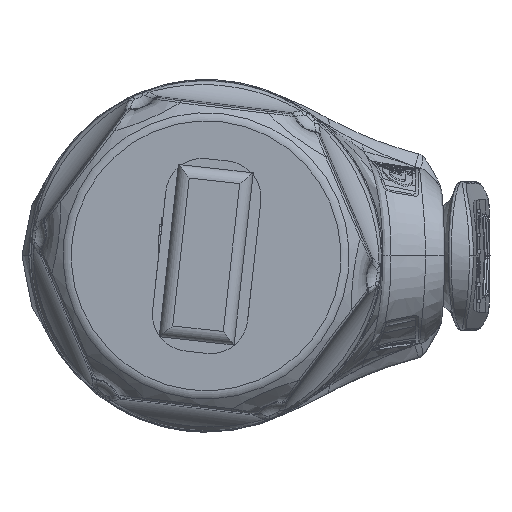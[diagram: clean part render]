
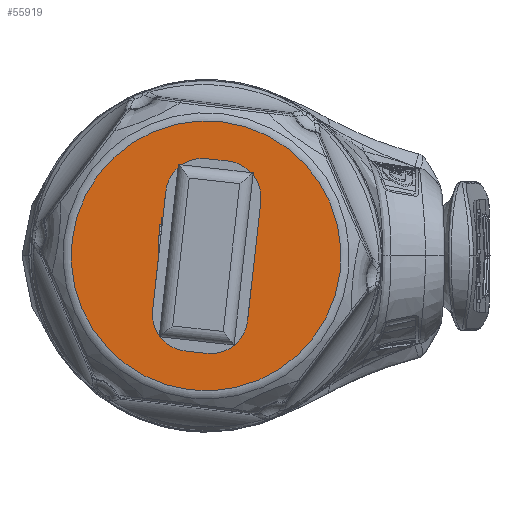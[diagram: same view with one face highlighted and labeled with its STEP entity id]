
A CAD part, left-side view. The second image highlights one B-rep face of the part: STEP entity #55919.
In plain terms, the highlighted planar face has unit normal (-1, 0, 0).
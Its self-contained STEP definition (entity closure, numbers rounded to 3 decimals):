
#882 = EDGE_CURVE ( 'NONE', #69760, #69760, #5087, .T. ) ;
#1437 = AXIS2_PLACEMENT_3D ( 'NONE', #70289, #92900, #85528 ) ;
#2358 = FACE_BOUND ( 'NONE', #71876, .T. ) ;
#4721 = ORIENTED_EDGE ( 'NONE', *, *, #23248, .T. ) ;
#4767 = VERTEX_POINT ( 'NONE', #27858 ) ;
#5087 = CIRCLE ( 'NONE', #80523, 2.5 ) ;
#12000 = DIRECTION ( 'NONE',  ( 0., -1., 0. ) ) ;
#18285 = AXIS2_PLACEMENT_3D ( 'NONE', #51743, #75871, #59138 ) ;
#23248 = EDGE_CURVE ( 'NONE', #4767, #4767, #78236, .T. ) ;
#25790 = DIRECTION ( 'NONE',  ( -1., 0., 0. ) ) ;
#26753 = EDGE_LOOP ( 'NONE', ( #4721 ) ) ;
#27858 = CARTESIAN_POINT ( 'NONE',  ( -59.9, -4.312, -10.137 ) ) ;
#32695 = CARTESIAN_POINT ( 'NONE',  ( -59.9, -0.05, -0.015 ) ) ;
#40235 = FACE_OUTER_BOUND ( 'NONE', #26753, .T. ) ;
#47250 = ORIENTED_EDGE ( 'NONE', *, *, #882, .F. ) ;
#48606 = PLANE ( 'NONE',  #1437 ) ;
#51743 = CARTESIAN_POINT ( 'NONE',  ( -59.9, 0., 0. ) ) ;
#55919 = ADVANCED_FACE ( 'NONE', ( #2358, #40235 ), #48606, .T. ) ;
#59138 = DIRECTION ( 'NONE',  ( 0., -0.391, -0.92 ) ) ;
#69760 = VERTEX_POINT ( 'NONE', #85961 ) ;
#70289 = CARTESIAN_POINT ( 'NONE',  ( -59.9, 0., 0. ) ) ;
#71876 = EDGE_LOOP ( 'NONE', ( #47250 ) ) ;
#75871 = DIRECTION ( 'NONE',  ( -1., 0., 0. ) ) ;
#78236 = CIRCLE ( 'NONE', #18285, 11.016 ) ;
#80523 = AXIS2_PLACEMENT_3D ( 'NONE', #32695, #25790, #12000 ) ;
#85528 = DIRECTION ( 'NONE',  ( 0., -1., 0. ) ) ;
#85961 = CARTESIAN_POINT ( 'NONE',  ( -59.9, -2.55, -0.015 ) ) ;
#92900 = DIRECTION ( 'NONE',  ( -1., 0., 0. ) ) ;
